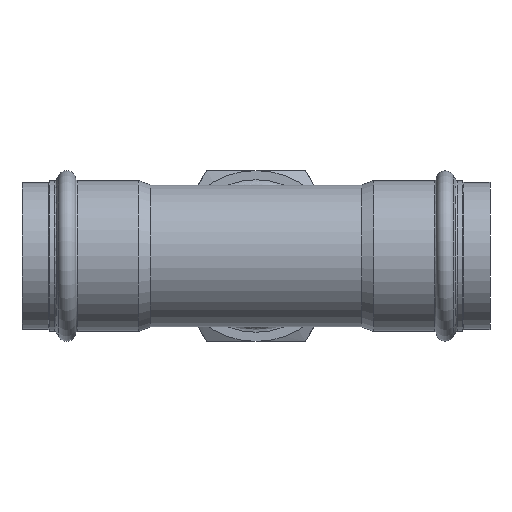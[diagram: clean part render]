
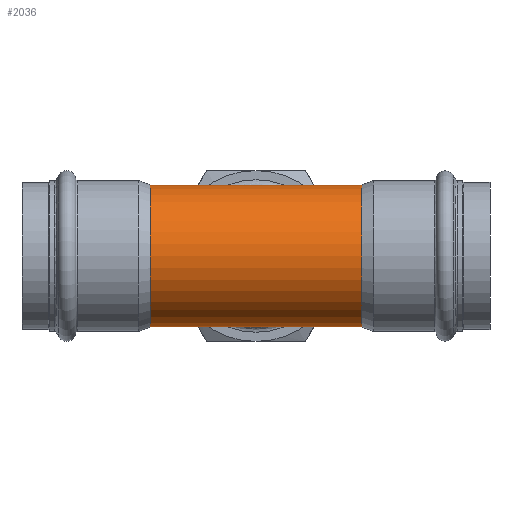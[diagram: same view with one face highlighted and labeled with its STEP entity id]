
A CAD part, front view. The second image highlights one B-rep face of the part: STEP entity #2036.
In plain terms, the highlighted cylindrical face has radius 27 mm (diameter 54 mm), a full revolution.
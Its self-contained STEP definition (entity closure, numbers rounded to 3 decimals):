
#680=CARTESIAN_POINT('',(0.,0.0,-27.));
#681=VERTEX_POINT('',#680);
#682=CARTESIAN_POINT('',(0.,0.0,27.));
#683=VERTEX_POINT('',#682);
#691=CARTESIAN_POINT('',(0.0,0.,0.0));
#692=DIRECTION('',(-0.694,0.72,0.));
#693=DIRECTION('',(0.72,0.694,0.0));
#694=AXIS2_PLACEMENT_3D('',#691,#692,#693);
#695=ELLIPSE('',#694,38.897,27.);
#696=EDGE_CURVE('',#683,#681,#695,.T.);
#861=CARTESIAN_POINT('',(0.0,0.,0.0));
#862=DIRECTION('',(0.694,0.72,0.));
#863=DIRECTION('',(-0.72,0.694,0.0));
#864=AXIS2_PLACEMENT_3D('',#861,#862,#863);
#865=ELLIPSE('',#864,38.897,27.);
#866=EDGE_CURVE('',#681,#683,#865,.T.);
#1861=CARTESIAN_POINT('',(40.133,27.,0.0));
#1862=VERTEX_POINT('',#1861);
#1863=CARTESIAN_POINT('',(40.133,0.,0.0));
#1864=DIRECTION('',(1.0,0.0,0.0));
#1865=DIRECTION('',(0.0,1.0,0.0));
#1866=AXIS2_PLACEMENT_3D('',#1863,#1864,#1865);
#1867=CIRCLE('',#1866,27.);
#1868=EDGE_CURVE('',#1862,#1862,#1867,.T.);
#2006=CARTESIAN_POINT('',(-40.133,27.,0.0));
#2007=VERTEX_POINT('',#2006);
#2008=CARTESIAN_POINT('',(-40.133,0.,0.0));
#2009=DIRECTION('',(1.0,0.0,0.0));
#2010=DIRECTION('',(0.0,1.0,0.0));
#2011=AXIS2_PLACEMENT_3D('',#2008,#2009,#2010);
#2012=CIRCLE('',#2011,27.0);
#2013=EDGE_CURVE('',#2007,#2007,#2012,.T.);
#2021=CARTESIAN_POINT('',(0.,0.,0.0));
#2022=DIRECTION('',(1.0,0.,0.0));
#2023=DIRECTION('',(0.0,1.0,0.0));
#2024=AXIS2_PLACEMENT_3D('',#2021,#2022,#2023);
#2025=CYLINDRICAL_SURFACE('',#2024,27.);
#2026=ORIENTED_EDGE('',*,*,#1868,.F.);
#2027=EDGE_LOOP('',(#2026));
#2028=FACE_OUTER_BOUND('',#2027,.T.);
#2029=ORIENTED_EDGE('',*,*,#696,.F.);
#2030=ORIENTED_EDGE('',*,*,#866,.F.);
#2031=EDGE_LOOP('',(#2029,#2030));
#2032=FACE_BOUND('',#2031,.T.);
#2033=ORIENTED_EDGE('',*,*,#2013,.T.);
#2034=EDGE_LOOP('',(#2033));
#2035=FACE_BOUND('',#2034,.T.);
#2036=ADVANCED_FACE('',(#2028,#2032,#2035),#2025,.T.);
